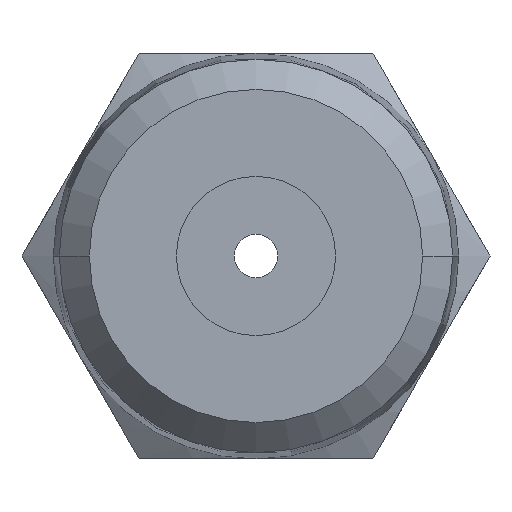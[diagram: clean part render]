
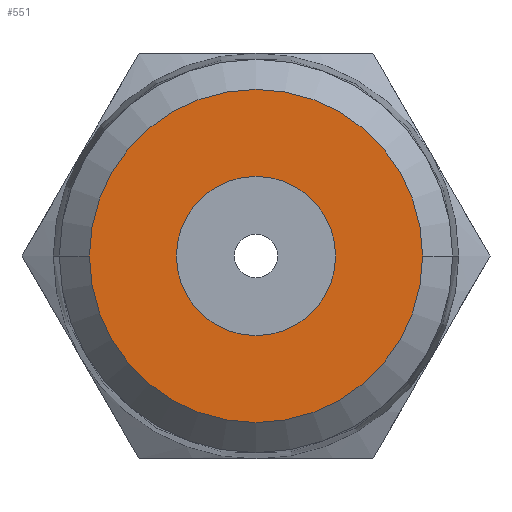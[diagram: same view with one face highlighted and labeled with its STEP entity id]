
A CAD part, front view. The second image highlights one B-rep face of the part: STEP entity #551.
In plain terms, the highlighted planar face has unit normal (0, -1, 0).
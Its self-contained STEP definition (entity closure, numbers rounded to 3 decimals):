
#14=CARTESIAN_POINT('',(0.,0.,0.));
#15=DIRECTION('',(0.,-1.,0.));
#16=DIRECTION('',(-1.,0.,0.));
#17=AXIS2_PLACEMENT_3D('',#14,#15,#16);
#19=CARTESIAN_POINT('',(0.,0.,0.));
#20=DIRECTION('',(0.,-1.,0.));
#21=DIRECTION('',(1.,0.,0.));
#22=AXIS2_PLACEMENT_3D('',#19,#20,#21);
#24=CARTESIAN_POINT('',(0.,0.,0.));
#25=DIRECTION('',(0.,-1.,0.));
#26=DIRECTION('',(-1.,0.,0.));
#27=AXIS2_PLACEMENT_3D('',#24,#25,#26);
#34=CARTESIAN_POINT('',(0.,0.,0.));
#35=DIRECTION('',(0.,-1.,0.));
#36=DIRECTION('',(1.,0.,0.));
#37=AXIS2_PLACEMENT_3D('',#34,#35,#36);
#498=CARTESIAN_POINT('',(-5.756,0.,0.));
#499=CARTESIAN_POINT('',(5.756,0.,0.));
#500=VERTEX_POINT('',#498);
#501=VERTEX_POINT('',#499);
#526=CARTESIAN_POINT('',(-2.75,0.,0.));
#527=CARTESIAN_POINT('',(2.75,0.,0.));
#528=VERTEX_POINT('',#526);
#529=VERTEX_POINT('',#527);
#534=CARTESIAN_POINT('',(0.,0.,0.));
#535=DIRECTION('',(0.,1.,0.));
#536=DIRECTION('',(1.,0.,0.));
#537=AXIS2_PLACEMENT_3D('',#534,#535,#536);
#538=PLANE('',#537);
#540=ORIENTED_EDGE('',*,*,#539,.F.);
#542=ORIENTED_EDGE('',*,*,#541,.F.);
#543=EDGE_LOOP('',(#540,#542));
#544=FACE_OUTER_BOUND('',#543,.F.);
#546=ORIENTED_EDGE('',*,*,#545,.T.);
#548=ORIENTED_EDGE('',*,*,#547,.T.);
#549=EDGE_LOOP('',(#546,#548));
#550=FACE_BOUND('',#549,.F.);
#18=CIRCLE('',#17,2.75);
#23=CIRCLE('',#22,2.75);
#28=CIRCLE('',#27,5.756);
#38=CIRCLE('',#37,5.756);
#539=EDGE_CURVE('',#500,#501,#28,.T.);
#541=EDGE_CURVE('',#501,#500,#38,.T.);
#545=EDGE_CURVE('',#528,#529,#18,.T.);
#547=EDGE_CURVE('',#529,#528,#23,.T.);
#551=ADVANCED_FACE('',(#544,#550),#538,.F.);
